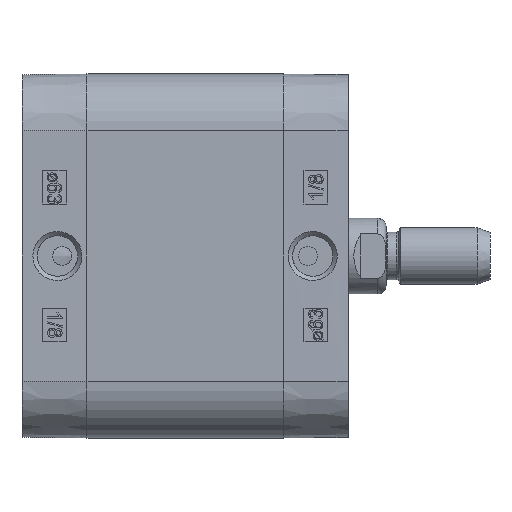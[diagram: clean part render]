
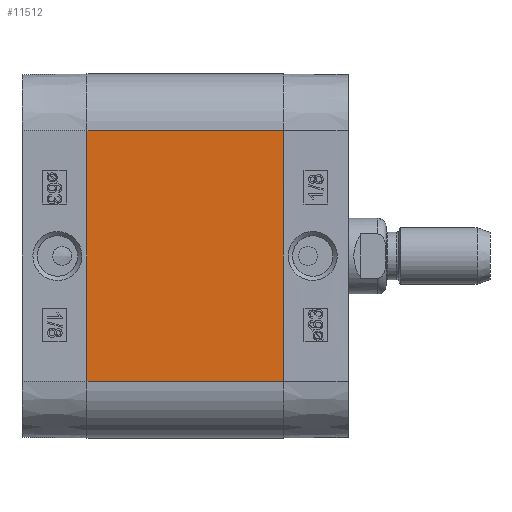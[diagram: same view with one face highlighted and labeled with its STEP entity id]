
A CAD part, left-side view. The second image highlights one B-rep face of the part: STEP entity #11512.
In plain terms, the highlighted planar face has unit normal (-1, 0, 0).
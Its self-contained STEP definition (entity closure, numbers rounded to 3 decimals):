
#5842=CARTESIAN_POINT('',(-38.5,-41.5,26.5));
#5843=VERTEX_POINT('',#5842);
#5850=CARTESIAN_POINT('',(-38.5,-41.5,-26.5));
#5851=VERTEX_POINT('',#5850);
#5852=CARTESIAN_POINT('',(-38.5,-41.5,-26.5));
#5853=DIRECTION('',(0.0,0.0,1.0));
#5854=VECTOR('',#5853,53.0);
#5855=LINE('',#5852,#5854);
#5856=EDGE_CURVE('',#5851,#5843,#5855,.T.);
#11470=CARTESIAN_POINT('',(-38.5,0.0,-26.5));
#11471=VERTEX_POINT('',#11470);
#11472=CARTESIAN_POINT('',(-38.5,0.0,-26.5));
#11473=DIRECTION('',(0.0,-1.0,0.0));
#11474=VECTOR('',#11473,41.5);
#11475=LINE('',#11472,#11474);
#11476=EDGE_CURVE('',#11471,#5851,#11475,.T.);
#11489=CARTESIAN_POINT('',(-38.5,0.0,-26.5));
#11490=DIRECTION('',(-1.0,0.0,0.0));
#11491=DIRECTION('',(0.0,0.0,1.0));
#11492=AXIS2_PLACEMENT_3D('',#11489,#11490,#11491);
#11493=PLANE('',#11492);
#11494=ORIENTED_EDGE('',*,*,#5856,.T.);
#11495=CARTESIAN_POINT('',(-38.5,0.0,26.5));
#11496=VERTEX_POINT('',#11495);
#11497=CARTESIAN_POINT('',(-38.5,0.0,26.5));
#11498=DIRECTION('',(0.0,-1.0,0.0));
#11499=VECTOR('',#11498,41.5);
#11500=LINE('',#11497,#11499);
#11501=EDGE_CURVE('',#11496,#5843,#11500,.T.);
#11502=ORIENTED_EDGE('',*,*,#11501,.F.);
#11503=CARTESIAN_POINT('',(-38.5,0.0,-26.5));
#11504=DIRECTION('',(0.0,0.0,1.0));
#11505=VECTOR('',#11504,53.0);
#11506=LINE('',#11503,#11505);
#11507=EDGE_CURVE('',#11471,#11496,#11506,.T.);
#11508=ORIENTED_EDGE('',*,*,#11507,.F.);
#11509=ORIENTED_EDGE('',*,*,#11476,.T.);
#11510=EDGE_LOOP('',(#11494,#11502,#11508,#11509));
#11511=FACE_OUTER_BOUND('',#11510,.T.);
#11512=ADVANCED_FACE('',(#11511),#11493,.T.);
